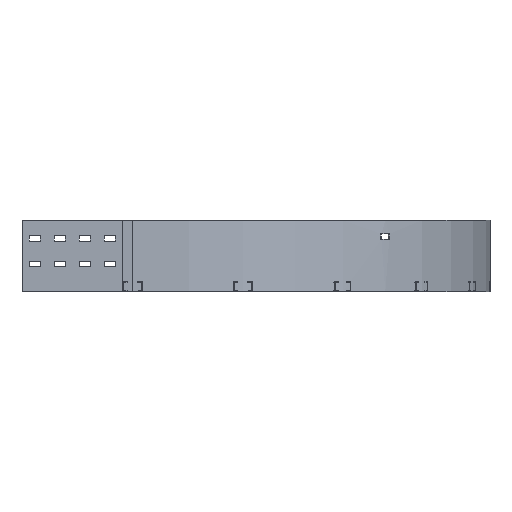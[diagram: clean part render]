
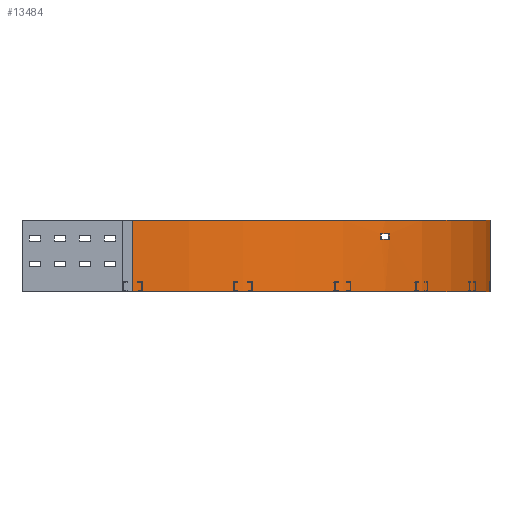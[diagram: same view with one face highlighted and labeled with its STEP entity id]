
A CAD part, front view. The second image highlights one B-rep face of the part: STEP entity #13484.
In plain terms, the highlighted cylindrical face has radius 711 mm (diameter 1422 mm), a partial arc.
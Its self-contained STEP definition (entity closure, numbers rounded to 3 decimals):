
#335=FACE_BOUND('',#1900,.T.);
#595=CYLINDRICAL_SURFACE('',#14207,711.);
#628=CIRCLE('',#14199,711.);
#633=CIRCLE('',#14206,711.);
#634=CIRCLE('',#14208,711.);
#635=CIRCLE('',#14209,711.);
#1202=FACE_OUTER_BOUND('',#1899,.T.);
#1899=EDGE_LOOP('',(#9116,#9117,#9118,#9119));
#1900=EDGE_LOOP('',(#9120,#9121,#9122,#9123));
#2855=LINE('',#18745,#4291);
#2861=LINE('',#18769,#4297);
#2862=LINE('',#18774,#4298);
#2863=LINE('',#18777,#4299);
#4291=VECTOR('',#15262,304.8);
#4297=VECTOR('',#15288,304.8);
#4298=VECTOR('',#15291,304.8);
#4299=VECTOR('',#15294,304.8);
#5724=VERTEX_POINT('',#18738);
#5727=VERTEX_POINT('',#18743);
#5728=VERTEX_POINT('',#18747);
#5735=VERTEX_POINT('',#18765);
#5736=VERTEX_POINT('',#18770);
#5737=VERTEX_POINT('',#18771);
#5738=VERTEX_POINT('',#18773);
#5739=VERTEX_POINT('',#18775);
#7071=EDGE_CURVE('',#5727,#5724,#2855,.T.);
#7072=EDGE_CURVE('',#5724,#5728,#628,.T.);
#7082=EDGE_CURVE('',#5735,#5727,#633,.T.);
#7083=EDGE_CURVE('',#5728,#5735,#2861,.T.);
#7084=EDGE_CURVE('',#5736,#5737,#634,.T.);
#7085=EDGE_CURVE('',#5737,#5738,#2862,.T.);
#7086=EDGE_CURVE('',#5738,#5739,#635,.T.);
#7087=EDGE_CURVE('',#5739,#5736,#2863,.T.);
#9116=ORIENTED_EDGE('',*,*,#7071,.F.);
#9117=ORIENTED_EDGE('',*,*,#7082,.F.);
#9118=ORIENTED_EDGE('',*,*,#7083,.F.);
#9119=ORIENTED_EDGE('',*,*,#7072,.F.);
#9120=ORIENTED_EDGE('',*,*,#7084,.T.);
#9121=ORIENTED_EDGE('',*,*,#7085,.T.);
#9122=ORIENTED_EDGE('',*,*,#7086,.T.);
#9123=ORIENTED_EDGE('',*,*,#7087,.T.);
#13484=ADVANCED_FACE('',(#1202,#335),#595,.T.);
#14199=AXIS2_PLACEMENT_3D('',#18748,#15265,#15266);
#14206=AXIS2_PLACEMENT_3D('',#18767,#15284,#15285);
#14207=AXIS2_PLACEMENT_3D('',#18768,#15286,#15287);
#14208=AXIS2_PLACEMENT_3D('',#18772,#15289,#15290);
#14209=AXIS2_PLACEMENT_3D('',#18776,#15292,#15293);
#15262=DIRECTION('',(0.,0.,1.));
#15265=DIRECTION('center_axis',(0.,0.,1.));
#15266=DIRECTION('ref_axis',(0.,-1.,0.));
#15284=DIRECTION('center_axis',(0.,0.,-1.));
#15285=DIRECTION('ref_axis',(0.,-1.,0.));
#15286=DIRECTION('center_axis',(0.,0.,1.));
#15287=DIRECTION('ref_axis',(0.,-1.,0.));
#15288=DIRECTION('',(0.,0.,-1.));
#15289=DIRECTION('center_axis',(0.,0.,1.));
#15290=DIRECTION('ref_axis',(0.,-1.,0.));
#15291=DIRECTION('',(0.,0.,-1.));
#15292=DIRECTION('center_axis',(0.,0.,-1.));
#15293=DIRECTION('ref_axis',(0.,-1.,0.));
#15294=DIRECTION('',(0.,0.,1.));
#18738=CARTESIAN_POINT('',(-505.5,-205.5,71.));
#18743=CARTESIAN_POINT('',(-505.5,-205.5,-71.));
#18745=CARTESIAN_POINT('',(-505.5,-205.5,-71.));
#18747=CARTESIAN_POINT('',(205.5,505.5,71.));
#18748=CARTESIAN_POINT('Origin',(-505.5,505.5,71.));
#18765=CARTESIAN_POINT('',(205.5,505.5,-71.));
#18767=CARTESIAN_POINT('Origin',(-505.5,505.5,-71.));
#18768=CARTESIAN_POINT('Origin',(-505.5,505.5,0.));
#18769=CARTESIAN_POINT('',(205.5,505.5,71.));
#18770=CARTESIAN_POINT('',(-10.517,-4.904,44.));
#18771=CARTESIAN_POINT('',(5.038,10.654,44.));
#18772=CARTESIAN_POINT('Origin',(-505.5,505.5,44.));
#18773=CARTESIAN_POINT('',(5.038,10.654,33.));
#18774=CARTESIAN_POINT('',(5.038,10.654,44.));
#18775=CARTESIAN_POINT('',(-10.517,-4.904,33.));
#18776=CARTESIAN_POINT('Origin',(-505.5,505.5,33.));
#18777=CARTESIAN_POINT('',(-10.517,-4.904,33.));
